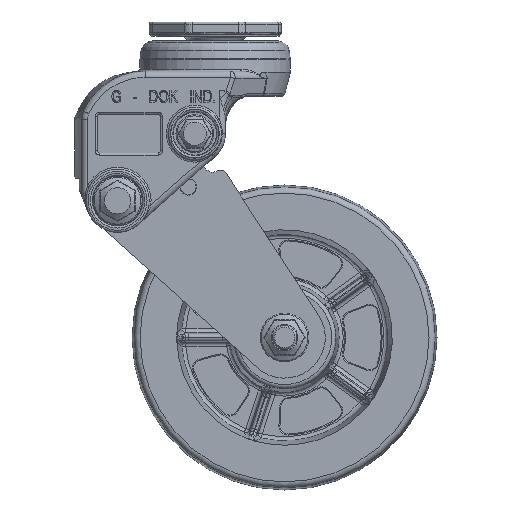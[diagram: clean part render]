
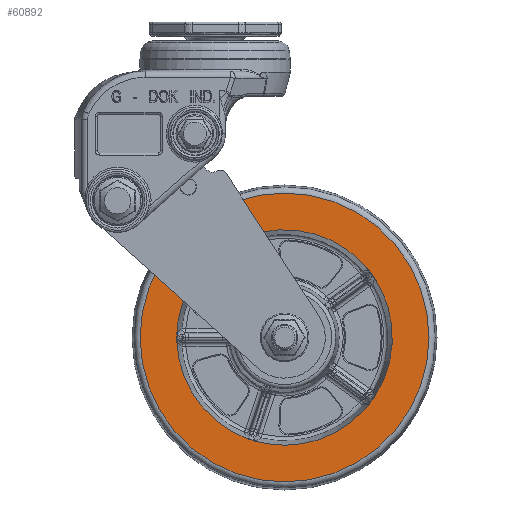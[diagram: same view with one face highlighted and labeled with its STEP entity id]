
A CAD part, left-side view. The second image highlights one B-rep face of the part: STEP entity #60892.
In plain terms, the highlighted planar face has unit normal (-1, 0, 0).
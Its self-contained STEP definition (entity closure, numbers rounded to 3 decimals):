
#32221=CARTESIAN_POINT('',(-19.95,-105.155,-145.514));
#32222=VERTEX_POINT('',#32221);
#32223=CARTESIAN_POINT('',(-19.95,-34.121,-145.514));
#32224=DIRECTION('',(1.0,0.0,0.0));
#32225=DIRECTION('',(0.0,1.0,0.0));
#32226=AXIS2_PLACEMENT_3D('',#32223,#32224,#32225);
#32227=CIRCLE('',#32226,71.035);
#32228=EDGE_CURVE('',#32222,#32222,#32227,.T.);
#32877=CARTESIAN_POINT('',(-19.95,-34.121,-198.514));
#32878=VERTEX_POINT('',#32877);
#32879=CARTESIAN_POINT('',(-19.95,-34.121,-145.514));
#32880=DIRECTION('',(-1.0,0.0,0.0));
#32881=DIRECTION('',(0.0,0.0,1.0));
#32882=AXIS2_PLACEMENT_3D('',#32879,#32880,#32881);
#32883=CIRCLE('',#32882,53.);
#32884=EDGE_CURVE('',#32878,#32878,#32883,.T.);
#60881=CARTESIAN_POINT('',(-19.95,-34.121,-89.514));
#60882=DIRECTION('',(-1.0,0.0,0.0));
#60883=DIRECTION('',(0.0,-1.0,0.0));
#60884=AXIS2_PLACEMENT_3D('',#60881,#60882,#60883);
#60885=PLANE('',#60884);
#60886=ORIENTED_EDGE('',*,*,#32228,.F.);
#60887=EDGE_LOOP('',(#60886));
#60888=FACE_OUTER_BOUND('',#60887,.T.);
#60889=ORIENTED_EDGE('',*,*,#32884,.F.);
#60890=EDGE_LOOP('',(#60889));
#60891=FACE_BOUND('',#60890,.T.);
#60892=ADVANCED_FACE('',(#60888,#60891),#60885,.T.);
